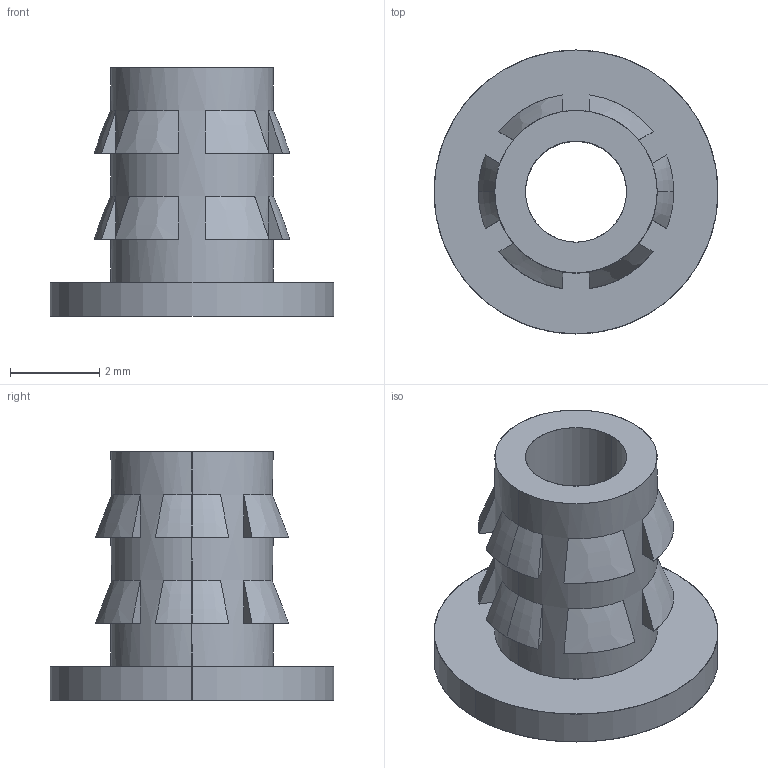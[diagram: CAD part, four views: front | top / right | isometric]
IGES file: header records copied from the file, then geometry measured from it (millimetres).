
Start section: SolidWorks IGES file using analytic representation for surfaces
Global section: file name: G:\thermofab project\INSERT\insert project\INSERT 3D\flanged insert 4-40.IGS; native system: SolidWorks 2015; preprocessor: SolidWorks 2015; author: Administrator; date: 170809.120753; units: millimetre
Bounding box: 6.35 x 6.35 x 5.56 mm (x, y, z)
Surface area: 177.6 mm2 (no closed solid volume)
Topology: 0 solids, 0 shells, 63 faces, 544 edges, 544 vertices
Faces by surface type: bspline 55, revolution 8
